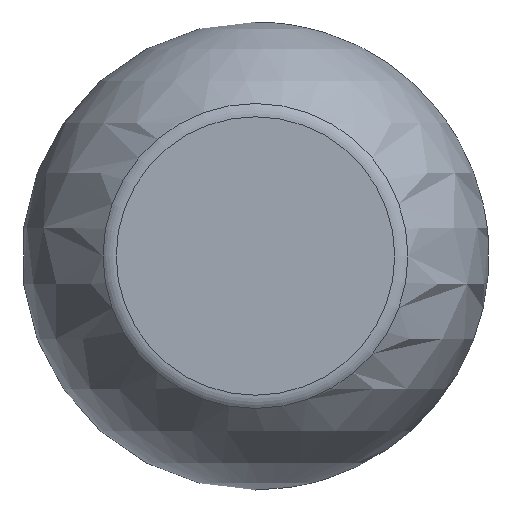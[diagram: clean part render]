
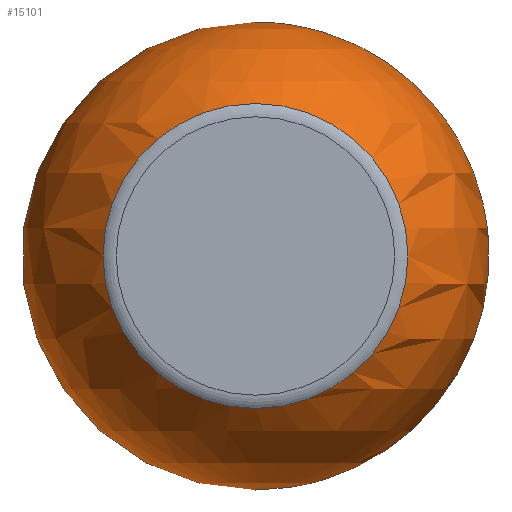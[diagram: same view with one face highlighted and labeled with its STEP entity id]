
A CAD part, left-side view. The second image highlights one B-rep face of the part: STEP entity #15101.
In plain terms, the highlighted spherical face has radius 18.326 mm.
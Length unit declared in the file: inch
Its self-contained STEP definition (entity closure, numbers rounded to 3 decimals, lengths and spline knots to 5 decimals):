
#72=SPHERICAL_SURFACE('',#15953,0.7215);
#3581=FACE_BOUND('',#5305,.T.);
#3582=FACE_BOUND('',#5306,.T.);
#5305=EDGE_LOOP('',(#13770));
#5306=EDGE_LOOP('',(#13771));
#5713=CIRCLE('',#15952,0.47012);
#5714=CIRCLE('',#15954,0.4038);
#7181=VERTEX_POINT('',#35358);
#7182=VERTEX_POINT('',#35361);
#9390=EDGE_CURVE('',#7181,#7181,#5713,.T.);
#9391=EDGE_CURVE('',#7182,#7182,#5714,.T.);
#13770=ORIENTED_EDGE('',*,*,#9390,.T.);
#13771=ORIENTED_EDGE('',*,*,#9391,.F.);
#15101=ADVANCED_FACE('',(#3581,#3582),#72,.T.);
#15952=AXIS2_PLACEMENT_3D('',#35359,#18608,#18609);
#15953=AXIS2_PLACEMENT_3D('',#35360,#18610,#18611);
#15954=AXIS2_PLACEMENT_3D('',#35362,#18612,#18613);
#18608=DIRECTION('center_axis',(1.,0.,0.));
#18609=DIRECTION('ref_axis',(0.,0.,-1.));
#18610=DIRECTION('center_axis',(0.,0.,1.));
#18611=DIRECTION('ref_axis',(1.,0.,0.));
#18612=DIRECTION('center_axis',(1.,0.,0.));
#18613=DIRECTION('ref_axis',(0.,0.,-1.));
#35358=CARTESIAN_POINT('',(-0.54731,0.47012,0.));
#35359=CARTESIAN_POINT('Origin',(-0.54731,0.,0.));
#35360=CARTESIAN_POINT('Origin',(0.,0.,0.));
#35361=CARTESIAN_POINT('',(0.59792,0.4038,0.));
#35362=CARTESIAN_POINT('Origin',(0.59792,0.,0.));
